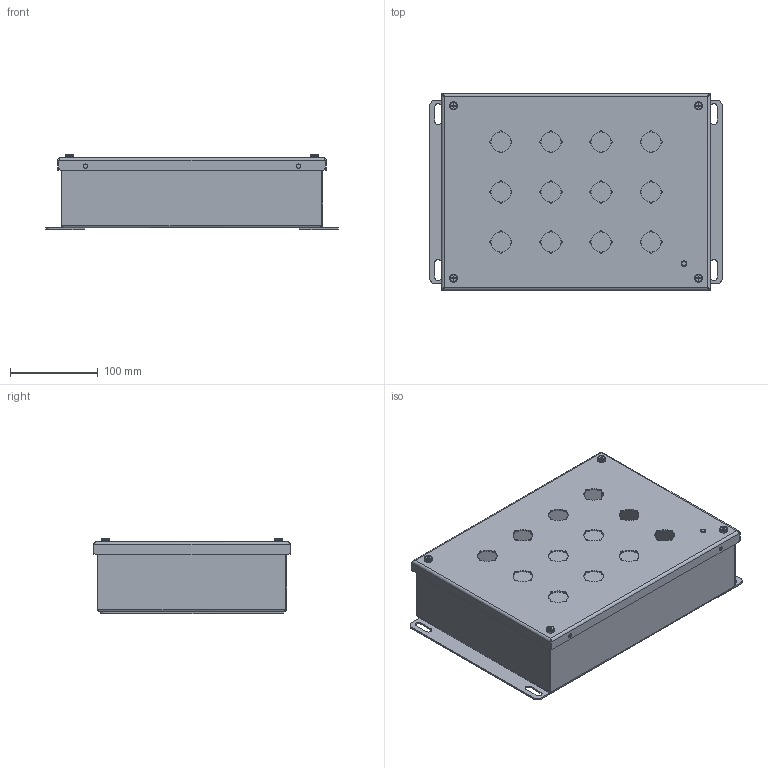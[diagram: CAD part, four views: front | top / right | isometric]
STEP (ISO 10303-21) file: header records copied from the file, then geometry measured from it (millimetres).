
FILE_DESCRIPTION((''),'2;1');
FILE_NAME('MODEL-335_ASM','2021-06-17T11:10:45',('chads'),('SAGINAW CONTROL & ENGINEERING'),'CREO PARAMETRIC BY PTC INC, 2017260','CREO PARAMETRIC BY PTC INC, 2017260','');
FILE_SCHEMA(('AUTOMOTIVE_DESIGN { 1 0 10303 214 1 1 1 1 }'));
Length unit declared in the file: inch
Products named in the file (10): MODEL-335-BDY; MODEL-335-DR; 100063; 102178; 101966; 100009; 100983; 102534; MODEL-335-GSKT; MODEL-335_ASM
Assembly tree (16 placements, depth 2):
  MODEL-335_ASM
    MODEL-335-BDY
    MODEL-335-DR
    100063
    102178  x2
    101966
    100009
    100983  x4
    102534  x4
    MODEL-335-GSKT
Bounding box: 333.38 x 223.84 x 85.69 mm (x, y, z)
Volume: 401429.3 mm3; surface area: 523277.6 mm2
Topology: 19 solids, 19 shells, 894 faces, 2295 edges, 1386 vertices
Faces by surface type: cylinder 418, plane 268, bspline 100, torus 80, cone 28
Entity records: 28762 total; most frequent: CARTESIAN_POINT 6619, DIRECTION 3279, ORIENTED_EDGE 3038, EDGE_CURVE 1519, PRESENTATION_STYLE_ASSIGNMENT 1431, STYLED_ITEM 1431, CURVE_STYLE 1355, AXIS2_PLACEMENT_3D 1269
